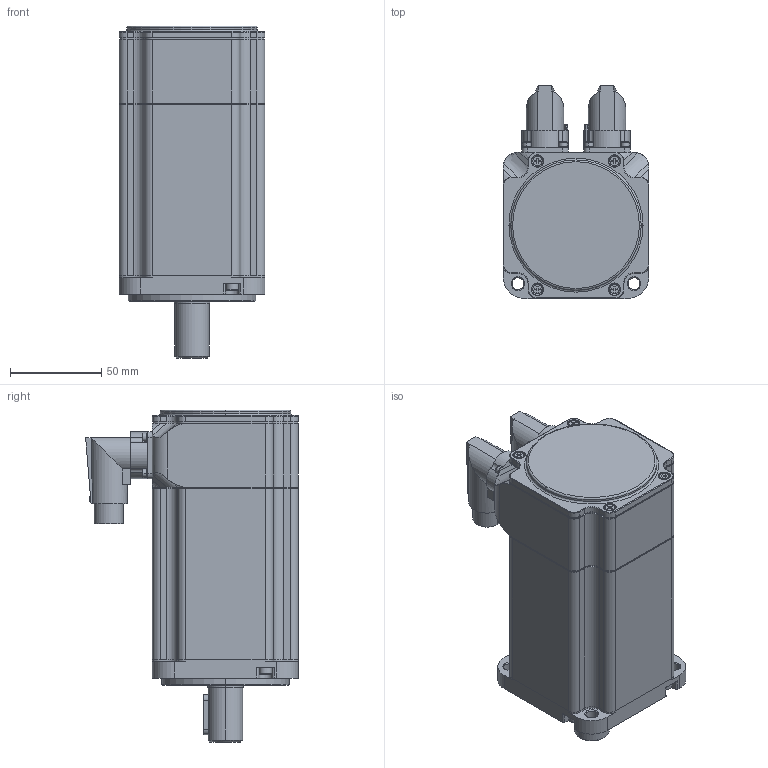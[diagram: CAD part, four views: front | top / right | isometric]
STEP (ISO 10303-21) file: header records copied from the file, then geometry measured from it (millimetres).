
FILE_DESCRIPTION (( 'STEP AP203' ), '1' );
FILE_NAME ('L80-753026XNC（SMH80-753026XNC-XX）.STEP', '2016-06-08T01:39:53', ( '微软用户' ), ( '微软中国' ), 'SwSTEP 2.0', 'SolidWorks 2011', '' );
FILE_SCHEMA (( 'CONFIG_CONTROL_DESIGN' ));
Products named in the file (22): L80-753026XNC（SMH80-753026XNC-XX）; 嘎殤蚐猾; hexagon socket head cap screws gb_GB_FASTENER_SCREWS_HSHCS M2.5X6-N; spring lock washers--normal type gb_GB_FASTENER_WASHER_SW 2.5; M17萇埭; M17陓瘍; circlips for holes--type a gb_GB_CONNECTING_PIECE_RING_RRH 42; 瑩; cross recessed countersunk head screws gb2_GB_CROSS_SCREWS_TYPE10 M3X8-6.35-H1-N; hexagon socket head cap screws gb_GB_FASTENER_SCREWS_HSHCS M4X35-N; 鎢攫欶綴裔; 躇猾菜; 鎢攫欶; 蛌赽軞傖_Default; deep groove ball bearings gb_Rolling bearings 6004 GB 276-94; 蛌赽郪璃_Default; 蛌粣; 隅赽軞傖_Default; hexagon socket head cap screws gb_GB_FASTENER_SCREWS_HSHCS M4X16-N; ヶ傷裔И璃; 儂褲; ヶ傷裔
Assembly tree (45 placements, depth 4):
  L80-753026XNC（SMH80-753026XNC-XX）
    嘎殤蚐猾
    spring lock washers--normal type gb_GB_FASTENER_WASHER_SW 2.5  x8
    hexagon socket head cap screws gb_GB_FASTENER_SCREWS_HSHCS M2.5X6-N  x8
    M17陓瘍
    circlips for holes--type a gb_GB_CONNECTING_PIECE_RING_RRH 42
    瑩
    cross recessed countersunk head screws gb2_GB_CROSS_SCREWS_TYPE10 M3X8-6.35-H1-N  x4
    M17萇埭
    hexagon socket head cap screws gb_GB_FASTENER_SCREWS_HSHCS M4X35-N  x4
    鎢攫欶綴裔
    躇猾菜  x2
    鎢攫欶
    蛌赽軞傖_Default
      deep groove ball bearings gb_Rolling bearings 6004 GB 276-94
      蛌赽郪璃_Default
        蛌粣
    隅赽軞傖_Default
      ヶ傷裔
      hexagon socket head cap screws gb_GB_FASTENER_SCREWS_HSHCS M4X16-N  x4
      ヶ傷裔И璃
      儂褲
Bounding box: 80 x 116.6 x 182 mm (x, y, z)
Volume: 316508.3 mm3; surface area: 170800 mm2
Topology: 42 solids, 42 shells, 1946 faces, 5145 edges, 3291 vertices
Faces by surface type: plane 771, cylinder 770, cone 169, torus 118, bspline 66, sphere 52
Entity records: 51944 total; most frequent: CARTESIAN_POINT 12824, DIRECTION 7794, ORIENTED_EDGE 7486, EDGE_CURVE 3743, AXIS2_PLACEMENT_3D 3046, VERTEX_POINT 2442, VECTOR 1702, LINE 1702
